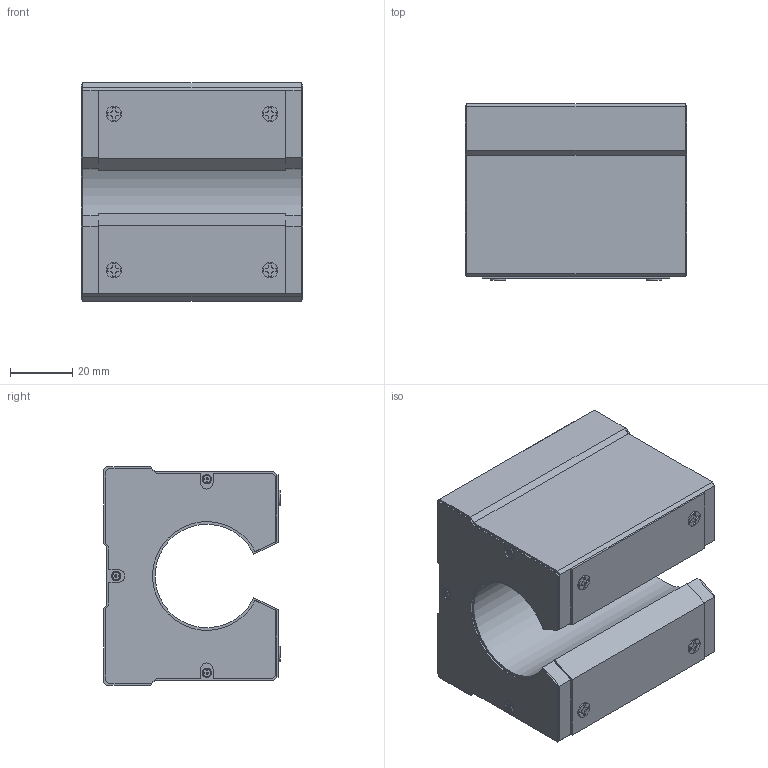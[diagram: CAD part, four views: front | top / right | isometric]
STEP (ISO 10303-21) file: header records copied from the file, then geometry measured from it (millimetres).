
FILE_DESCRIPTION (( 'STEP AP203' ), '1' );
FILE_NAME ('SME30UU.STEP', '2020-03-23T03:03:11', ( '' ), ( '' ), 'SwSTEP 2.0', 'SolidWorks 2017', '' );
FILE_SCHEMA (( 'CONFIG_CONTROL_DESIGN' ));
Length unit declared in the file: millimetre
Products named in the file (1): SME30UU
Bounding box: 71 x 56.5 x 70 mm (x, y, z)
Volume: 197266.5 mm3; surface area: 29402.3 mm2
Topology: 1 solids, 1 shells, 296 faces, 798 edges, 524 vertices
Faces by surface type: plane 239, cylinder 45, torus 12
Entity records: 9273 total; most frequent: CARTESIAN_POINT 1679, ORIENTED_EDGE 1596, DIRECTION 1490, EDGE_CURVE 798, VECTOR 676, LINE 676, VERTEX_POINT 524, AXIS2_PLACEMENT_3D 407
